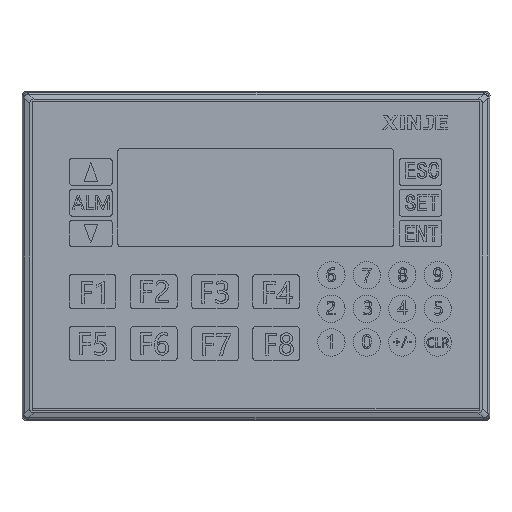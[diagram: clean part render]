
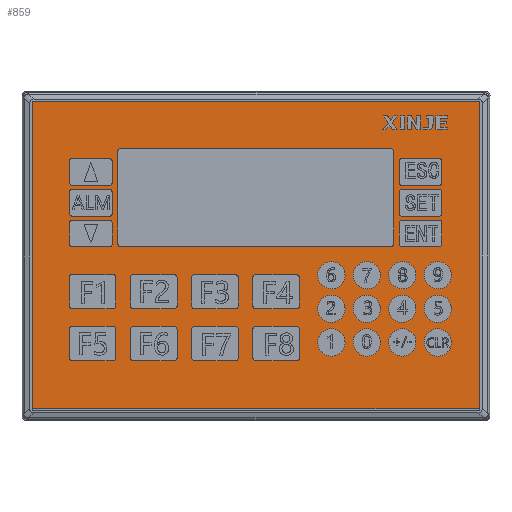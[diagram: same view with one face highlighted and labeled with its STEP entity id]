
A CAD part, front view. The second image highlights one B-rep face of the part: STEP entity #859.
In plain terms, the highlighted planar face has unit normal (0, -1, 0).
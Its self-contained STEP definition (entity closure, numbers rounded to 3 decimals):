
#859=ADVANCED_FACE('',(#1865),#16877,.T.);
#1865=FACE_OUTER_BOUND('',#2871,.T.);
#2871=EDGE_LOOP('',(#3980,#3981,#3982,#3983));
#3980=ORIENTED_EDGE('',*,*,#9321,.F.);
#3981=ORIENTED_EDGE('',*,*,#9320,.F.);
#3982=ORIENTED_EDGE('',*,*,#9319,.F.);
#3983=ORIENTED_EDGE('',*,*,#9318,.F.);
#9318=EDGE_CURVE('',#14799,#14800,#12244,.T.);
#9319=EDGE_CURVE('',#14800,#14801,#12245,.T.);
#9320=EDGE_CURVE('',#14801,#14802,#12246,.T.);
#9321=EDGE_CURVE('',#14802,#14799,#12247,.T.);
#12244=B_SPLINE_CURVE_WITH_KNOTS('',1,(#19572,#19573),.UNSPECIFIED.,.F.,
 .F.,(2,2),(0.,163.8),.UNSPECIFIED.);
#12245=B_SPLINE_CURVE_WITH_KNOTS('',1,(#19574,#19575),.UNSPECIFIED.,.F.,
 .F.,(2,2),(0.,112.5),.UNSPECIFIED.);
#12246=B_SPLINE_CURVE_WITH_KNOTS('',1,(#19576,#19577),.UNSPECIFIED.,.F.,
 .F.,(2,2),(0.,163.8),.UNSPECIFIED.);
#12247=B_SPLINE_CURVE_WITH_KNOTS('',1,(#19578,#19579),.UNSPECIFIED.,.F.,
 .F.,(2,2),(0.,112.5),.UNSPECIFIED.);
#14799=VERTEX_POINT('',#19568);
#14800=VERTEX_POINT('',#19569);
#14801=VERTEX_POINT('',#19570);
#14802=VERTEX_POINT('',#19571);
#16877=PLANE('',#17762);
#17762=AXIS2_PLACEMENT_3D('',#19567,#18659,$);
#18659=DIRECTION('',(0.,-1.,0.));
#19567=CARTESIAN_POINT('',(-170.8,-29.12,84.544));
#19568=CARTESIAN_POINT('',(-170.8,-29.12,84.544));
#19569=CARTESIAN_POINT('',(-7.,-29.12,84.544));
#19570=CARTESIAN_POINT('',(-7.,-29.12,-27.956));
#19571=CARTESIAN_POINT('',(-170.8,-29.12,-27.956));
#19572=CARTESIAN_POINT('',(-170.8,-29.12,84.544));
#19573=CARTESIAN_POINT('',(-7.,-29.12,84.544));
#19574=CARTESIAN_POINT('',(-7.,-29.12,84.544));
#19575=CARTESIAN_POINT('',(-7.,-29.12,-27.956));
#19576=CARTESIAN_POINT('',(-7.,-29.12,-27.956));
#19577=CARTESIAN_POINT('',(-170.8,-29.12,-27.956));
#19578=CARTESIAN_POINT('',(-170.8,-29.12,-27.956));
#19579=CARTESIAN_POINT('',(-170.8,-29.12,84.544));
